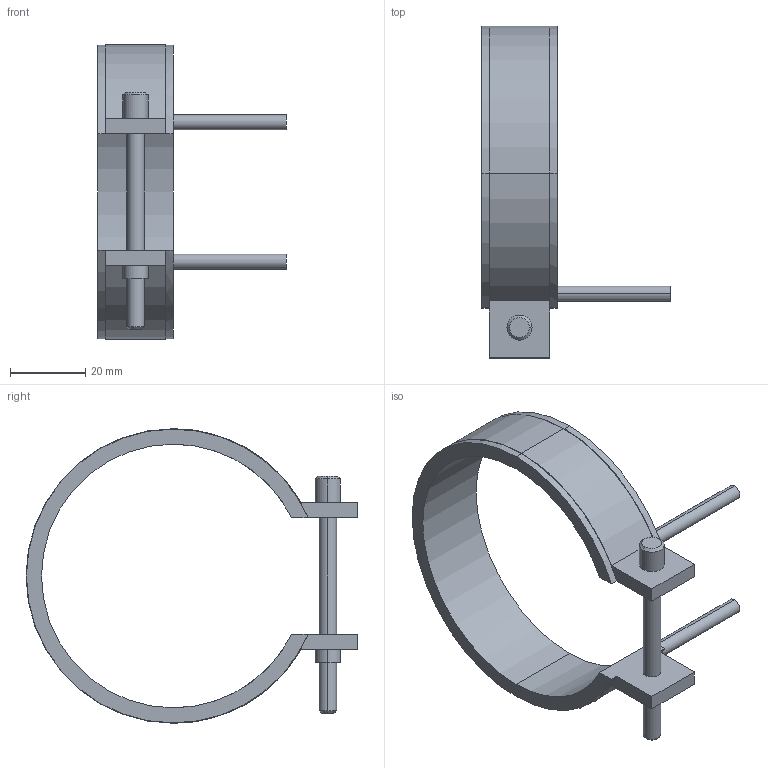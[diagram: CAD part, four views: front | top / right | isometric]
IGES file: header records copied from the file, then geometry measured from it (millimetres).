
Start section: START RECORD GO HERE.
Global section: file name: 14070020.igs; native system: DASSAULT SYSTEMES CATIA V5 R20 - www.3ds.com; preprocessor: CATIA Version 5 Release 20 ; author: Utente; organization: NB04-ASUS; date: 20210403.091724; units: millimetre
Bounding box: 50 x 88.1 x 78.2 mm (x, y, z)
Surface area: 12544.4 mm2 (no closed solid volume)
Topology: 0 solids, 0 shells, 45 faces, 232 edges, 232 vertices
Faces by surface type: revolution 28, plane 17
